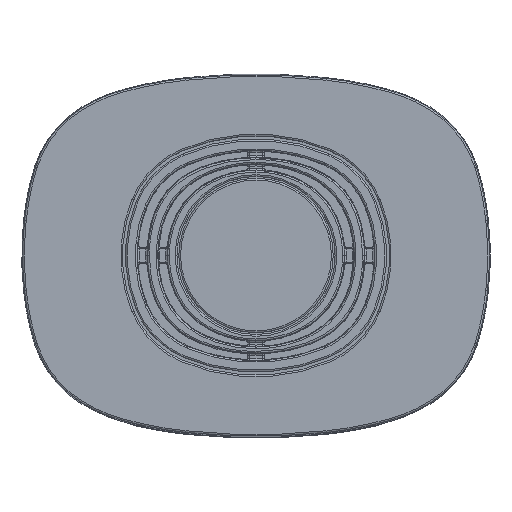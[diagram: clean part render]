
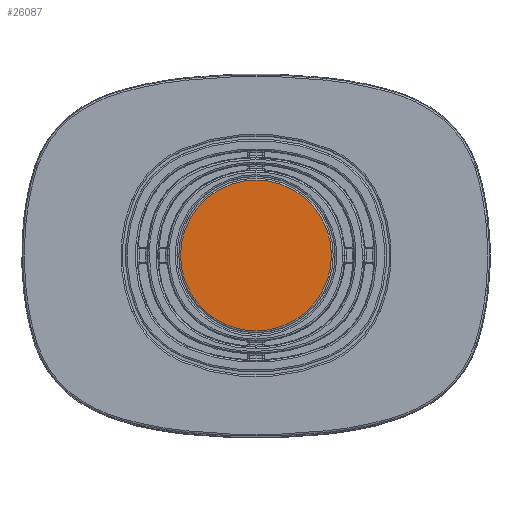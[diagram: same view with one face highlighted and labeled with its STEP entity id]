
A CAD part, top view. The second image highlights one B-rep face of the part: STEP entity #26087.
In plain terms, the highlighted planar face has unit normal (0, 0, 1).
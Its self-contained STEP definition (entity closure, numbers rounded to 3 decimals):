
#2475=CIRCLE('',#28350,86.2);
#6503=ORIENTED_EDGE('',*,*,#13518,.T.);
#13518=EDGE_CURVE('',#17161,#17161,#2475,.T.);
#17161=VERTEX_POINT('',#43621);
#22242=EDGE_LOOP('',(#6503));
#23963=FACE_BOUND('',#22242,.T.);
#25329=PLANE('',#28349);
#26087=ADVANCED_FACE('',(#23963),#25329,.T.);
#28349=AXIS2_PLACEMENT_3D('',#43619,#32702,#32703);
#28350=AXIS2_PLACEMENT_3D('',#43620,#32704,#32705);
#32702=DIRECTION('',(0.,0.,1.));
#32703=DIRECTION('',(1.,0.,0.));
#32704=DIRECTION('',(0.,0.,1.));
#32705=DIRECTION('',(1.,0.,0.));
#43619=CARTESIAN_POINT('',(-14.985,123.28,859.51));
#43620=CARTESIAN_POINT('',(0.,135.025,859.51));
#43621=CARTESIAN_POINT('',(86.2,135.025,859.51));
